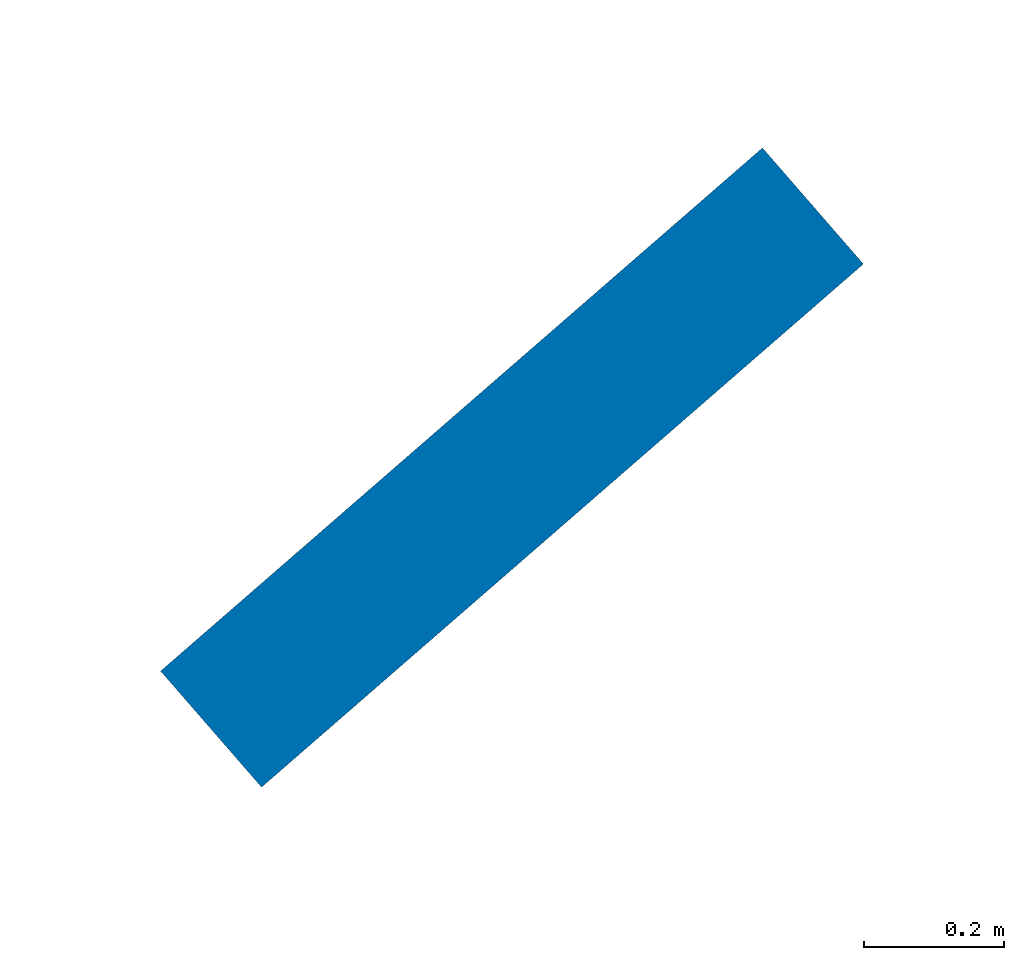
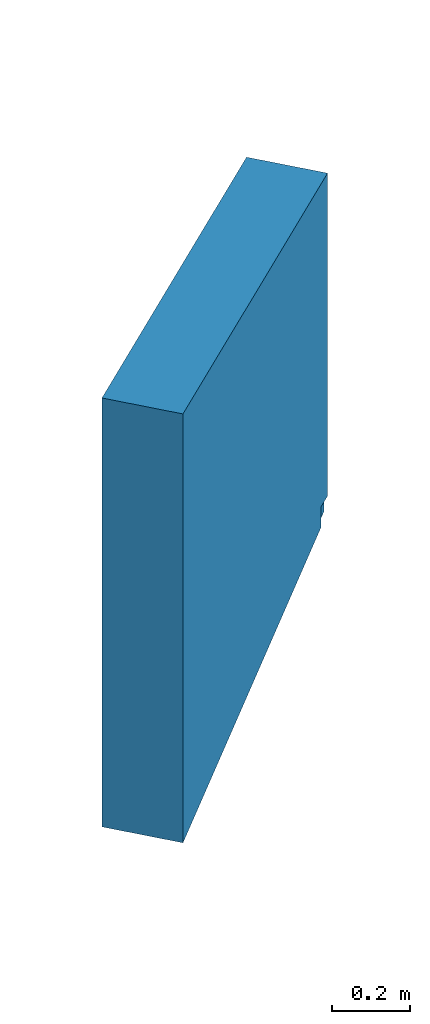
# One storey, part 223 of 390: 1 wall.
"""IFC2X3 building model written with IfcOpenShell, lengths in millimetres."""

from ifc_helpers import new_model, entity, si_unit, converted_unit, derived_unit, money_unit, direction, frame, origin_with_axes, place, context, subcontext, project, spatial, faceted_brep, material, material_list, type_object, element, save


model = new_model("IFC2X3")

# Units and contexts
model_context = context("Model", 3, precision=1e-05, world=origin_with_axes(), true_north=direction((0.0, 1.0)))
body_context = subcontext(model_context, "Body", "Model", "MODEL_VIEW")
ifc_project = project(units=[si_unit("LENGTHUNIT", "METRE", prefix="MILLI"), si_unit("AREAUNIT", "SQUARE_METRE"), si_unit("VOLUMEUNIT", "CUBIC_METRE"), converted_unit("PLANEANGLEUNIT", "DEGREE", entity("IfcPlaneAngleMeasure", 0.0174532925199), si_unit("PLANEANGLEUNIT", "RADIAN"), dimensions=[0, 0, 0, 0, 0, 0, 0]), si_unit("SOLIDANGLEUNIT", "STERADIAN"), money_unit("EUR"), converted_unit("TIMEUNIT", "Year", entity("IfcTimeMeasure", 31556926.0), si_unit("TIMEUNIT", "SECOND"), dimensions=[0, 0, 1, 0, 0, 0, 0]), si_unit("MASSUNIT", "GRAM", prefix="KILO"), si_unit("THERMODYNAMICTEMPERATUREUNIT", "DEGREE_CELSIUS"), si_unit("LUMINOUSINTENSITYUNIT", "LUMEN"), si_unit("ENERGYUNIT", "JOULE", prefix="MEGA"), derived_unit("THERMALCONDUCTANCEUNIT", [(si_unit("POWERUNIT", "WATT"), 1), (si_unit("LENGTHUNIT", "METRE"), -1), (si_unit("THERMODYNAMICTEMPERATUREUNIT", "KELVIN"), -1)]), derived_unit("SPECIFICHEATCAPACITYUNIT", [(si_unit("ENERGYUNIT", "JOULE"), 1), (si_unit("MASSUNIT", "GRAM", prefix="KILO"), -1), (si_unit("THERMODYNAMICTEMPERATUREUNIT", "KELVIN"), -1)]), derived_unit("MASSDENSITYUNIT", [(si_unit("MASSUNIT", "GRAM", prefix="KILO"), 1), (si_unit("VOLUMEUNIT", "CUBIC_METRE"), -1)])], contexts=[model_context])

# Site, building, storey
site_placement = place(None, origin_with_axes())
site = spatial("IfcSite", under=ifc_project, at=site_placement, Name="Site", CompositionType="ELEMENT")
building_placement = place(site_placement, origin_with_axes())
building = spatial("IfcBuilding", under=site, at=building_placement, Name="Building", CompositionType="ELEMENT")
storey_placement = place(building_placement, origin_with_axes())
storey = spatial("IfcBuildingStorey", under=building, at=storey_placement, Name="1 korrus", CompositionType="ELEMENT", Elevation=0.0)

# Wall
ifc_material_1 = material(Name="Krohv - Lubjakivi")
ifc_material_2 = material(Name="Raudbetoon - Konstruktsioon")
ifc_material_list = material_list([ifc_material_1, ifc_material_2, ifc_material_1])
wall_type = type_object("IfcWallType", Name="SS-10", PredefinedType="NOTDEFINED")
wall_placement = place(storey_placement, frame((141755.013286, 84302.4309978, 25.0), z_axis=(0.0, 0.0, 1.0), x_axis=(0.754709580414, 0.65605902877, 0.0)))
element("IfcWall", 1, at=wall_placement, inside=storey, type_object=wall_type, material=ifc_material_list, Name="SS-10", context=body_context, shape_type="Brep", body=[
    faceted_brep([(0.0, 210.0, 15.8320868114), (1140.00000028, 210.0, 296.6589147), (1140.00000028, 210.0, 1360.0), (0.0, 210.0, 1360.0), (1140.00000028, 220.0, 296.658914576), (0.0, 220.0, 15.8320866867), (1140.00000028, 220.0, 1360.0), (0.0, 220.0, 1360.0)], [[[0, 1, 2, 3]], [[4, 1, 0, 5]], [[1, 4, 6, 2]], [[2, 6, 7, 3]], [[5, 0, 3, 7]], [[4, 5, 7, 6]]]),
    faceted_brep([(0.0, 9.99999999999, 15.8320893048), (1140.00000028, 10.0, 296.658917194), (1140.00000028, 10.0, 1360.0), (0.0, 9.99999999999, 1360.0), (1140.00000028, 210.0, 296.6589147), (0.0, 210.0, 15.8320868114), (1140.00000028, 210.0, 1360.0), (0.0, 210.0, 1360.0)], [[[0, 1, 2, 3]], [[4, 1, 0, 5]], [[1, 4, 6, 2]], [[2, 6, 7, 3]], [[5, 0, 3, 7]], [[4, 5, 7, 6]]]),
    faceted_brep([(0.0, 0.0, 15.8320894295), (1089.99924473, 0.0, 284.341765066), (1089.9992427, 0.0, 348.227022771), (1140.00000028, 0.0, 348.227022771), (1140.00000028, 0.0, 1360.0), (0.0, 0.0, 1360.0), (1089.99924315, 10.0, 284.341764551), (0.0, 9.99999999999, 15.8320893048), (1089.99924111, 10.0, 348.227022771), (1140.00000028, 10.0, 348.227022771), (1140.00000028, 10.0, 1360.0), (0.0, 9.99999999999, 1360.0)], [[[0, 1, 2, 3, 4, 5]], [[6, 1, 0, 7]], [[1, 6, 8, 2]], [[9, 3, 2, 8]], [[3, 9, 10, 4]], [[5, 4, 10, 11]], [[7, 0, 5, 11]], [[6, 7, 11, 10, 9, 8]]]),
])

save(model, "model.ifc")
